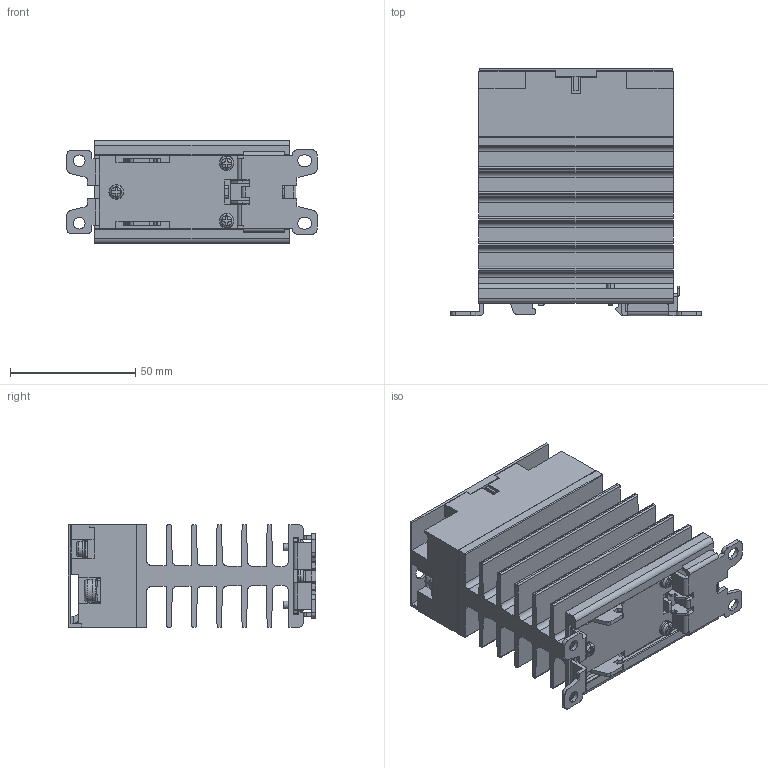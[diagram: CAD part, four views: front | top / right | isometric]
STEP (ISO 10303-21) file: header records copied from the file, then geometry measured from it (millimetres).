
FILE_DESCRIPTION (( 'STEP AP203' ), '1' );
FILE_NAME ('YISSN45-3(0).STEP', '2019-06-11T07:49:01', ( '' ), ( '' ), 'SwSTEP 2.0', 'SolidWorks 2018', '' );
FILE_SCHEMA (( 'CONFIG_CONTROL_DESIGN' ));
Length unit declared in the file: millimetre
Products named in the file (9): SSN-45F-2_デフォルト; SSN-45F-3_デフォルト; SSL-15F-4_デフォルト; SSN-45F-4_デフォルト; M3亊6_僙儉僗僫儀_M3亊6_僙儉僗僫儀; M3.5亊8妏嵗7亊7_僼儕乕抂巕_M3.5亊8乮妏嵗7.6亊7.6乯; M5亊10妏嵗9.6亊9.6_僼儕乕抂巕_M4亊8乮妏嵗8.7亊8.7乯; YISSN45-3(0); SSN-45F-1_デフォルト
Assembly tree (12 placements, depth 2):
  YISSN45-3(0)
    SSN-45F-1_デフォルト
    SSN-45F-2_デフォルト
    SSN-45F-3_デフォルト
    SSL-15F-4_デフォルト
    SSN-45F-4_デフォルト
    M3亊6_僙儉僗僫儀_M3亊6_僙儉僗僫儀  x3
    M3.5亊8妏嵗7亊7_僼儕乕抂巕_M3.5亊8乮妏嵗7.6亊7.6乯  x2
    M5亊10妏嵗9.6亊9.6_僼儕乕抂巕_M4亊8乮妏嵗8.7亊8.7乯  x2
Bounding box: 100 x 98.8 x 41 mm (x, y, z)
Volume: 165079.3 mm3; surface area: 79783.4 mm2
Topology: 12 solids, 12 shells, 824 faces, 2218 edges, 1415 vertices
Faces by surface type: plane 477, cylinder 280, sphere 23, bspline 18, torus 18, cone 8
Entity records: 21972 total; most frequent: CARTESIAN_POINT 4105, ORIENTED_EDGE 3538, DIRECTION 3533, EDGE_CURVE 1769, LINE 1251, VECTOR 1251, VERTEX_POINT 1145, AXIS2_PLACEMENT_3D 1141
